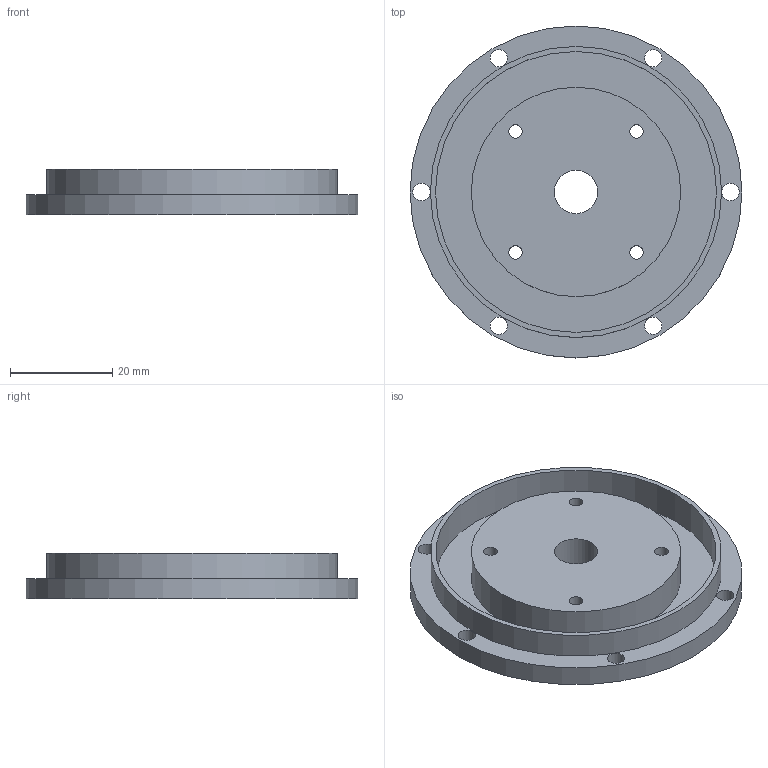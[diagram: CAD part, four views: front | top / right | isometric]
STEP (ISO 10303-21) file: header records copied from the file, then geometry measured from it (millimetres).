
FILE_DESCRIPTION(('Open CASCADE Model'),'2;1');
FILE_NAME('Open CASCADE Shape Model','2026-10-04T21:56:21',('Author'),( 'Open CASCADE'),'Open CASCADE STEP processor 7.9','Open CASCADE 7.9' ,'Unknown');
FILE_SCHEMA(('AUTOMOTIVE_DESIGN { 1 0 10303 214 1 1 1 1 }'));
Length unit declared in the file: millimetre
Products named in the file (1): Open CASCADE STEP translator 7.9 2
Bounding box: 65 x 65 x 9 mm (x, y, z)
Volume: 18236.1 mm3; surface area: 10842.9 mm2
Topology: 1 solids, 1 shells, 20 faces, 45 edges, 30 vertices
Faces by surface type: cylinder 15, plane 5
Full cylindrical faces by diameter (mm): 2.7 x4, 3.4 x6, 8.5 x1, 41 x1, 55 x1, 57 x1, 65 x1
Entity records: 1236 total; most frequent: CARTESIAN_POINT 222, DIRECTION 201, ORIENTED_EDGE 90, PCURVE 90, DEFINITIONAL_REPRESENTATION 90, LINE 75, VECTOR 75, CIRCLE 54
